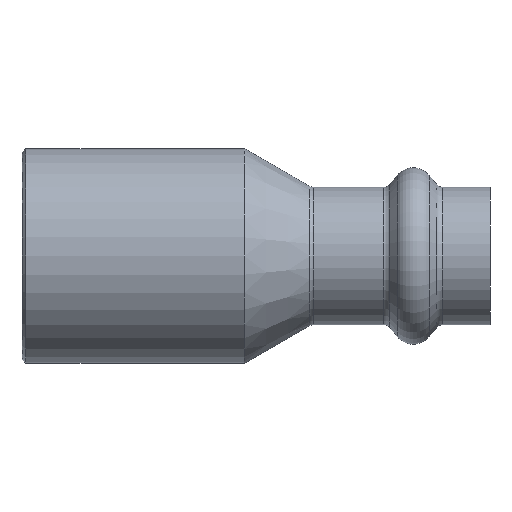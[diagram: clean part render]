
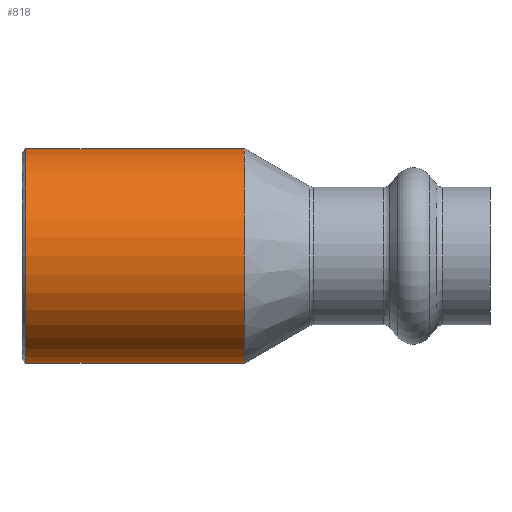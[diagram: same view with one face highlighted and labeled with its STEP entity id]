
A CAD part, front view. The second image highlights one B-rep face of the part: STEP entity #818.
In plain terms, the highlighted cylindrical face has radius 14 mm (diameter 28 mm), a partial arc.
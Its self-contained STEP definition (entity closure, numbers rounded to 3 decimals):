
#29 = CARTESIAN_POINT ( 'NONE',  ( -4.079, 0., 0. ) ) ;
#75 = DIRECTION ( 'NONE',  ( 0., 0., 1. ) ) ;
#108 = CYLINDRICAL_SURFACE ( 'NONE', #437, 14. ) ;
#170 = ORIENTED_EDGE ( 'NONE', *, *, #181, .T. ) ;
#181 = EDGE_CURVE ( 'NONE', #1315, #864, #799, .T. ) ;
#192 = EDGE_CURVE ( 'NONE', #1287, #728, #593, .T. ) ;
#231 = CARTESIAN_POINT ( 'NONE',  ( 29., 0., -14. ) ) ;
#252 = DIRECTION ( 'NONE',  ( -1., 0., 0. ) ) ;
#272 = ORIENTED_EDGE ( 'NONE', *, *, #805, .T. ) ;
#275 = CARTESIAN_POINT ( 'NONE',  ( -4.079, 0., -14. ) ) ;
#289 = CARTESIAN_POINT ( 'NONE',  ( 0.5, 0., 0. ) ) ;
#326 = DIRECTION ( 'NONE',  ( -1., 0., 0. ) ) ;
#405 = CARTESIAN_POINT ( 'NONE',  ( -4.079, 0., 14. ) ) ;
#437 = AXIS2_PLACEMENT_3D ( 'NONE', #29, #447, #75 ) ;
#438 = EDGE_LOOP ( 'NONE', ( #820, #170, #272, #513 ) ) ;
#447 = DIRECTION ( 'NONE',  ( -1., 0., 0. ) ) ;
#475 = VECTOR ( 'NONE', #1178, 1000. ) ;
#513 = ORIENTED_EDGE ( 'NONE', *, *, #192, .F. ) ;
#552 = LINE ( 'NONE', #275, #475 ) ;
#593 = CIRCLE ( 'NONE', #1169, 14. ) ;
#666 = CARTESIAN_POINT ( 'NONE',  ( 0.5, 0., -14. ) ) ;
#728 = VERTEX_POINT ( 'NONE', #1129 ) ;
#759 = EDGE_CURVE ( 'NONE', #1315, #1287, #552, .T. ) ;
#775 = CARTESIAN_POINT ( 'NONE',  ( 29., 0., 14. ) ) ;
#792 = VECTOR ( 'NONE', #326, 1000. ) ;
#799 = CIRCLE ( 'NONE', #1179, 14. ) ;
#805 = EDGE_CURVE ( 'NONE', #864, #728, #1200, .T. ) ;
#818 = ADVANCED_FACE ( 'NONE', ( #846 ), #108, .T. ) ;
#820 = ORIENTED_EDGE ( 'NONE', *, *, #759, .F. ) ;
#846 = FACE_OUTER_BOUND ( 'NONE', #438, .T. ) ;
#864 = VERTEX_POINT ( 'NONE', #775 ) ;
#1028 = CARTESIAN_POINT ( 'NONE',  ( 29., 0., 0. ) ) ;
#1029 = DIRECTION ( 'NONE',  ( -1., 0., 0. ) ) ;
#1032 = DIRECTION ( 'NONE',  ( 0., 0., 1. ) ) ;
#1126 = DIRECTION ( 'NONE',  ( 0., 0., 1. ) ) ;
#1129 = CARTESIAN_POINT ( 'NONE',  ( 0.5, 0., 14. ) ) ;
#1169 = AXIS2_PLACEMENT_3D ( 'NONE', #289, #252, #1126 ) ;
#1178 = DIRECTION ( 'NONE',  ( -1., 0., 0. ) ) ;
#1179 = AXIS2_PLACEMENT_3D ( 'NONE', #1028, #1029, #1032 ) ;
#1200 = LINE ( 'NONE', #405, #792 ) ;
#1287 = VERTEX_POINT ( 'NONE', #666 ) ;
#1315 = VERTEX_POINT ( 'NONE', #231 ) ;
